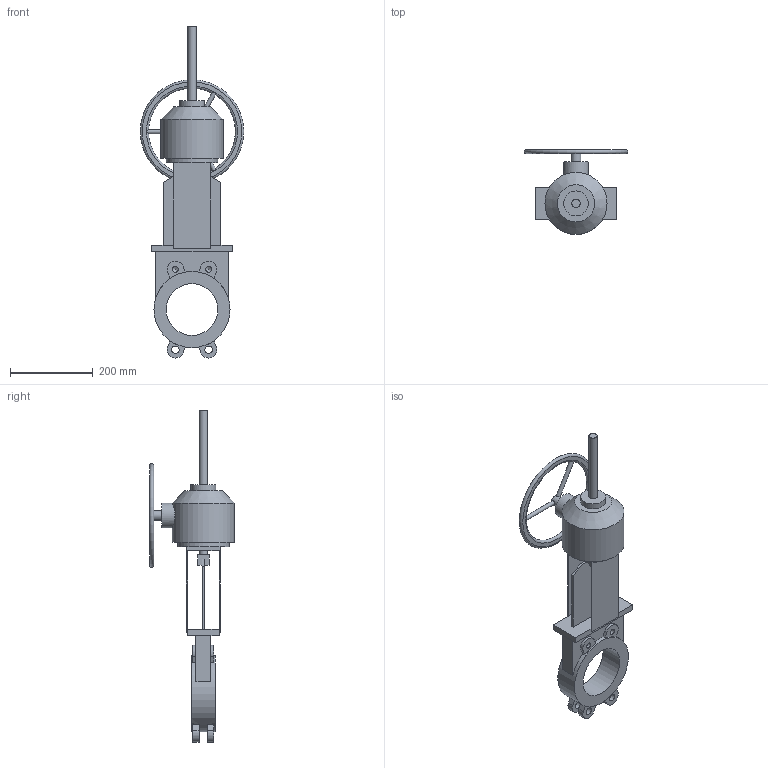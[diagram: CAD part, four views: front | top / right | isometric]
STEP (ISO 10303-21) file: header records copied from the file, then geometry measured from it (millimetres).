
FILE_DESCRIPTION(('STEP AP203'), '1');
FILE_NAME('Çàäâèæêà øèáåðíàÿ K51GV DN125 ðåäóêòîð+âûäâèæíîé øïèíäåëü', '', ('UNSPECIFIED'), ('UNSPECIFIED'), 'ASCON STEP Converter 1.6', 'ASCON Math Kernel', '');
FILE_SCHEMA(('CONFIG_CONTROL_DESIGN'));
Length unit declared in the file: millimetre
Bounding box: 250 x 205 x 801.99 mm (x, y, z)
Volume: 4335964.2 mm3; surface area: 437149.8 mm2
Topology: 1 solids, 1 shells, 110 faces, 286 edges, 183 vertices
Faces by surface type: plane 73, cylinder 28, cone 5, torus 4
Full cylindrical faces by diameter (mm): 10 x3, 13.835 x4, 18 x4, 20 x2, 24 x1, 60 x2, 125 x2, 150 x1, 184 x1
Entity records: 5481 total; most frequent: CARTESIAN_POINT 1921, DIRECTION 546, ORIENTED_EDGE 510, EDGE_CURVE 255, AXIS2_PLACEMENT_3D 193, VERTEX_POINT 179, EDGE_LOOP 162, LINE 160
